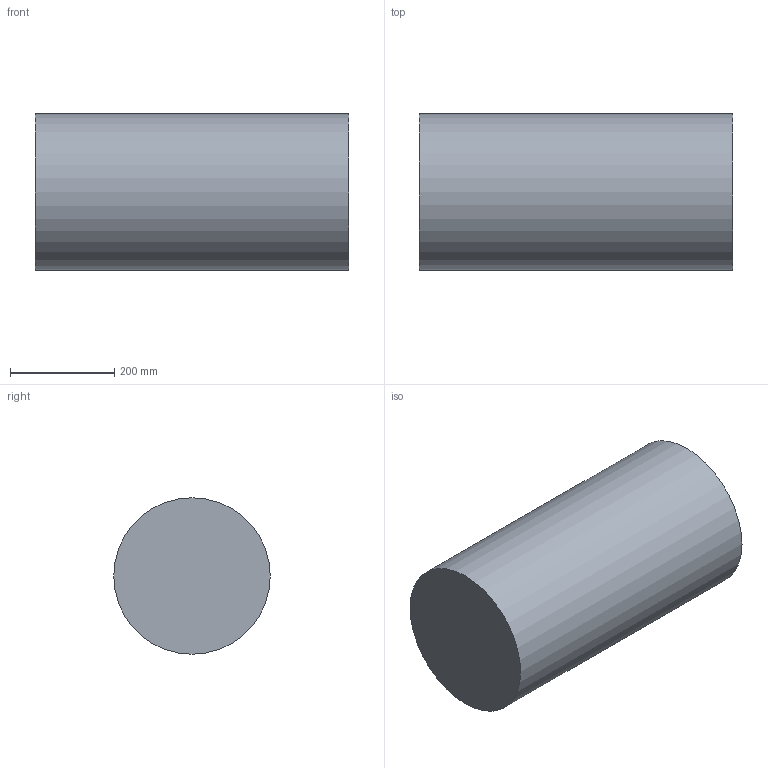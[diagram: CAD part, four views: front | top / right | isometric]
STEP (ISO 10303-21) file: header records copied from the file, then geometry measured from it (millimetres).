
FILE_DESCRIPTION(('Open CASCADE Model'),'2;1');
FILE_NAME('Open CASCADE Shape Model','2026-05-26T13:18:46',('Author'),( 'Open CASCADE'),'Open CASCADE STEP processor 7.8','build123d', 'Unknown');
FILE_SCHEMA(('AUTOMOTIVE_DESIGN { 1 0 10303 214 1 1 1 1 }'));
Length unit declared in the file: millimetre
Products named in the file (2): =>[0:1:1:2]; COMPOUND
Assembly tree (1 placements, depth 2):
  =>[0:1:1:2]
    COMPOUND
Bounding box: 600 x 300 x 300 mm (x, y, z)
Volume: 42411500.8 mm3; surface area: 706858.3 mm2
Topology: 1 solids, 1 shells, 3 faces, 3 edges, 2 vertices
Faces by surface type: plane 2, cylinder 1
Full cylindrical faces by diameter (mm): 300 x1
Entity records: 126 total; most frequent: DIRECTION 21, CARTESIAN_POINT 16, AXIS2_PLACEMENT_3D 7, ORIENTED_EDGE 6, PCURVE 6, DEFINITIONAL_REPRESENTATION 6, LINE 5, VECTOR 5
